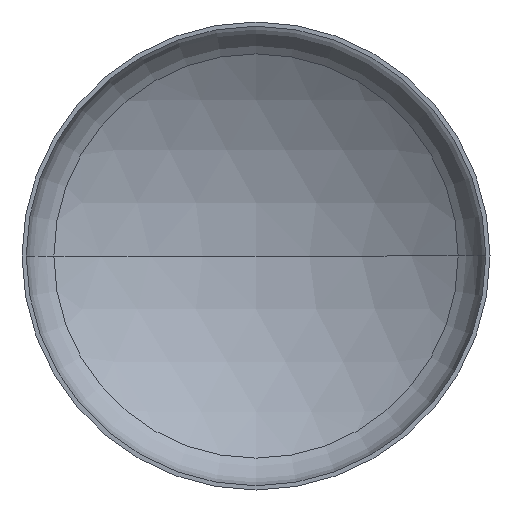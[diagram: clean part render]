
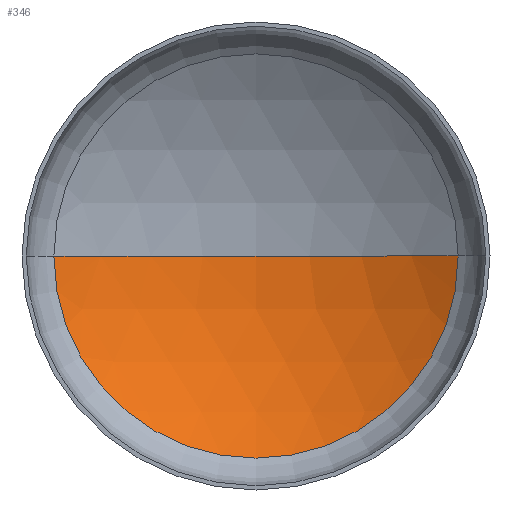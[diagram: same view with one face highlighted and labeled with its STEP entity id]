
A CAD part, front view. The second image highlights one B-rep face of the part: STEP entity #346.
In plain terms, the highlighted spherical face has radius 171.28 mm.
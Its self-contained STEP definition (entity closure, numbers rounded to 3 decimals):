
#3 = DIRECTION ( 'NONE',  ( -1., 0., 0. ) ) ;
#10 = CARTESIAN_POINT ( 'NONE',  ( 0., 29.984, 0. ) ) ;
#11 = VERTEX_POINT ( 'NONE', #289 ) ;
#53 = CIRCLE ( 'NONE', #259, 171.28 ) ;
#60 = EDGE_LOOP ( 'NONE', ( #343, #185, #88 ) ) ;
#62 = CIRCLE ( 'NONE', #292, 171.28 ) ;
#88 = ORIENTED_EDGE ( 'NONE', *, *, #184, .F. ) ;
#111 = CIRCLE ( 'NONE', #229, 94.633 ) ;
#146 = CARTESIAN_POINT ( 'NONE',  ( 0., -112.78, 0. ) ) ;
#184 = EDGE_CURVE ( 'NONE', #11, #408, #62, .T. ) ;
#185 = ORIENTED_EDGE ( 'NONE', *, *, #407, .T. ) ;
#195 = AXIS2_PLACEMENT_3D ( 'NONE', #353, #314, #3 ) ;
#219 = DIRECTION ( 'NONE',  ( 1., 0., 0. ) ) ;
#222 = CARTESIAN_POINT ( 'NONE',  ( 0., -112.78, 0. ) ) ;
#226 = DIRECTION ( 'NONE',  ( -1., 0., 0. ) ) ;
#229 = AXIS2_PLACEMENT_3D ( 'NONE', #10, #279, #226 ) ;
#259 = AXIS2_PLACEMENT_3D ( 'NONE', #222, #385, #219 ) ;
#270 = DIRECTION ( 'NONE',  ( 0., 0., -1. ) ) ;
#273 = DIRECTION ( 'NONE',  ( -1., 0., 0. ) ) ;
#279 = DIRECTION ( 'NONE',  ( 0., 1., 0. ) ) ;
#285 = SPHERICAL_SURFACE ( 'NONE', #195, 171.28 ) ;
#289 = CARTESIAN_POINT ( 'NONE',  ( -94.633, 29.984, 0. ) ) ;
#292 = AXIS2_PLACEMENT_3D ( 'NONE', #146, #270, #273 ) ;
#314 = DIRECTION ( 'NONE',  ( 0., 0., 1. ) ) ;
#338 = EDGE_CURVE ( 'NONE', #354, #11, #111, .T. ) ;
#343 = ORIENTED_EDGE ( 'NONE', *, *, #338, .F. ) ;
#345 = CARTESIAN_POINT ( 'NONE',  ( 0., 58.5, 0. ) ) ;
#346 = ADVANCED_FACE ( 'NONE', ( #380 ), #285, .F. ) ;
#351 = CARTESIAN_POINT ( 'NONE',  ( 94.633, 29.984, 0. ) ) ;
#353 = CARTESIAN_POINT ( 'NONE',  ( 0., -112.78, 0. ) ) ;
#354 = VERTEX_POINT ( 'NONE', #351 ) ;
#380 = FACE_OUTER_BOUND ( 'NONE', #60, .T. ) ;
#385 = DIRECTION ( 'NONE',  ( 0., 0., 1. ) ) ;
#407 = EDGE_CURVE ( 'NONE', #354, #408, #53, .T. ) ;
#408 = VERTEX_POINT ( 'NONE', #345 ) ;
